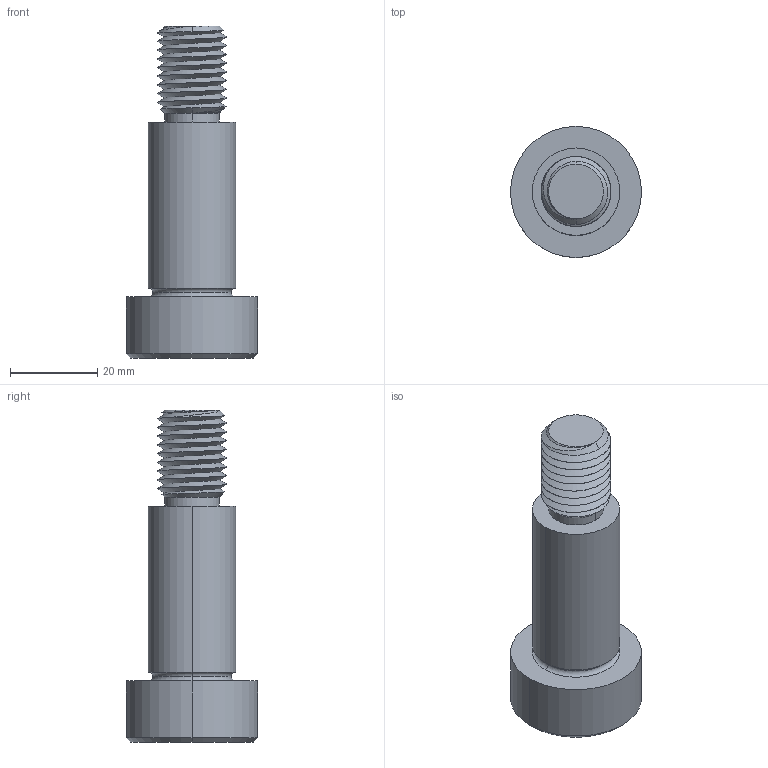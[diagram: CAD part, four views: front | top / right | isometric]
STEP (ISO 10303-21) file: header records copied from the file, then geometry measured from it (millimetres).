
FILE_DESCRIPTION (( 'STEP AP203' ), '1' );
FILE_NAME ('P0130.200-040-B2.step', '2021-11-09T22:21:58', ( '' ), ( '' ), 'SwSTEP 2.0', 'SolidWorks 2019', '' );
FILE_SCHEMA (( 'CONFIG_CONTROL_DESIGN' ));
Length unit declared in the file: millimetre
Products named in the file (1): P0130.200-040-B2
Bounding box: 30 x 30 x 76 mm (x, y, z)
Volume: 24776.7 mm3; surface area: 7417.2 mm2
Topology: 1 solids, 1 shells, 60 faces, 142 edges, 85 vertices
Faces by surface type: cylinder 24, plane 16, cone 14, torus 4, bspline 2
Entity records: 5678 total; most frequent: CARTESIAN_POINT 4332, ORIENTED_EDGE 280, DIRECTION 247, EDGE_CURVE 140, AXIS2_PLACEMENT_3D 99, VERTEX_POINT 85, EDGE_LOOP 63, ADVANCED_FACE 60
